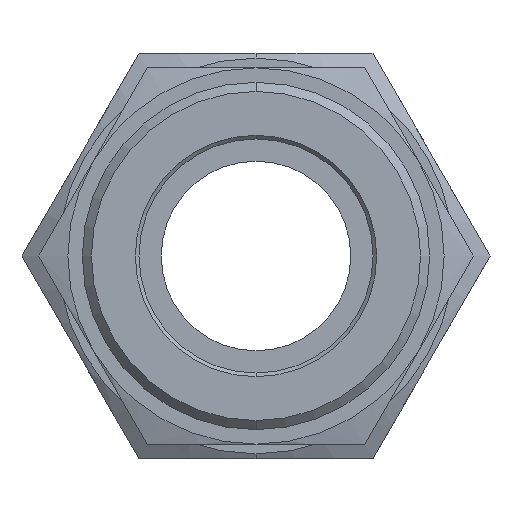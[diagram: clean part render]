
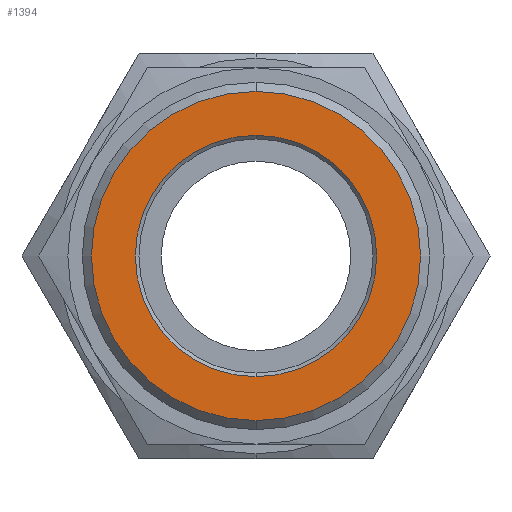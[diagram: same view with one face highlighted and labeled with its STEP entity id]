
A CAD part, left-side view. The second image highlights one B-rep face of the part: STEP entity #1394.
In plain terms, the highlighted planar face has unit normal (-1, 0, 0).
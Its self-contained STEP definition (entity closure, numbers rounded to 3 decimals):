
#118 = DIRECTION ( 'NONE',  ( 0., 0., 1. ) ) ;
#119 = DIRECTION ( 'NONE',  ( -1., 0., 0. ) ) ;
#120 = CARTESIAN_POINT ( 'NONE',  ( -11.9, 0., 0. ) ) ;
#121 = AXIS2_PLACEMENT_3D ( 'NONE', #120, #119, #118 ) ;
#122 = CIRCLE ( 'NONE', #121, 9.025 ) ;
#123 = CARTESIAN_POINT ( 'NONE',  ( -11.9, 0., 9.025 ) ) ;
#220 = CARTESIAN_POINT ( 'NONE',  ( -11.9, 0., -9.025 ) ) ;
#507 = DIRECTION ( 'NONE',  ( 0., 0., 1. ) ) ;
#508 = DIRECTION ( 'NONE',  ( -1., 0., 0. ) ) ;
#509 = AXIS2_PLACEMENT_3D ( 'NONE', #510, #508, #507 ) ;
#510 = CARTESIAN_POINT ( 'NONE',  ( -11.9, 0., 0. ) ) ;
#511 = PLANE ( 'NONE',  #509 ) ;
#512 = FACE_OUTER_BOUND ( 'NONE', #1398, .T. ) ;
#513 = FACE_BOUND ( 'NONE', #1395, .T. ) ;
#514 = DIRECTION ( 'NONE',  ( 0., 0., 1. ) ) ;
#515 = DIRECTION ( 'NONE',  ( 1., 0., 0. ) ) ;
#516 = CARTESIAN_POINT ( 'NONE',  ( -11.9, 0., 0. ) ) ;
#517 = AXIS2_PLACEMENT_3D ( 'NONE', #516, #515, #514 ) ;
#522 = CIRCLE ( 'NONE', #517, 6.62 ) ;
#902 = DIRECTION ( 'NONE',  ( 0., 0., 1. ) ) ;
#903 = DIRECTION ( 'NONE',  ( -1., 0., 0. ) ) ;
#904 = CARTESIAN_POINT ( 'NONE',  ( -11.9, 0., 0. ) ) ;
#905 = AXIS2_PLACEMENT_3D ( 'NONE', #904, #903, #902 ) ;
#906 = CIRCLE ( 'NONE', #905, 9.025 ) ;
#1007 = VERTEX_POINT ( 'NONE', #1593 ) ;
#1009 = EDGE_CURVE ( 'NONE', #1010, #1007, #1592, .T. ) ;
#1010 = VERTEX_POINT ( 'NONE', #1587 ) ;
#1166 = EDGE_CURVE ( 'NONE', #1167, #1168, #122, .T. ) ;
#1167 = VERTEX_POINT ( 'NONE', #123 ) ;
#1168 = VERTEX_POINT ( 'NONE', #220 ) ;
#1393 = EDGE_CURVE ( 'NONE', #1007, #1010, #522, .T. ) ;
#1394 = ADVANCED_FACE ( 'NONE', ( #513, #512 ), #511, .T. ) ;
#1395 = EDGE_LOOP ( 'NONE', ( #1396, #1397 ) ) ;
#1396 = ORIENTED_EDGE ( 'NONE', *, *, #1009, .T. ) ;
#1397 = ORIENTED_EDGE ( 'NONE', *, *, #1393, .T. ) ;
#1398 = EDGE_LOOP ( 'NONE', ( #1427, #1429 ) ) ;
#1427 = ORIENTED_EDGE ( 'NONE', *, *, #1428, .T. ) ;
#1428 = EDGE_CURVE ( 'NONE', #1168, #1167, #906, .T. ) ;
#1429 = ORIENTED_EDGE ( 'NONE', *, *, #1166, .T. ) ;
#1587 = CARTESIAN_POINT ( 'NONE',  ( -11.9, 0., 6.62 ) ) ;
#1588 = DIRECTION ( 'NONE',  ( 0., 0., 1. ) ) ;
#1589 = DIRECTION ( 'NONE',  ( 1., 0., 0. ) ) ;
#1590 = CARTESIAN_POINT ( 'NONE',  ( -11.9, 0., 0. ) ) ;
#1591 = AXIS2_PLACEMENT_3D ( 'NONE', #1590, #1589, #1588 ) ;
#1592 = CIRCLE ( 'NONE', #1591, 6.62 ) ;
#1593 = CARTESIAN_POINT ( 'NONE',  ( -11.9, 0., -6.62 ) ) ;
